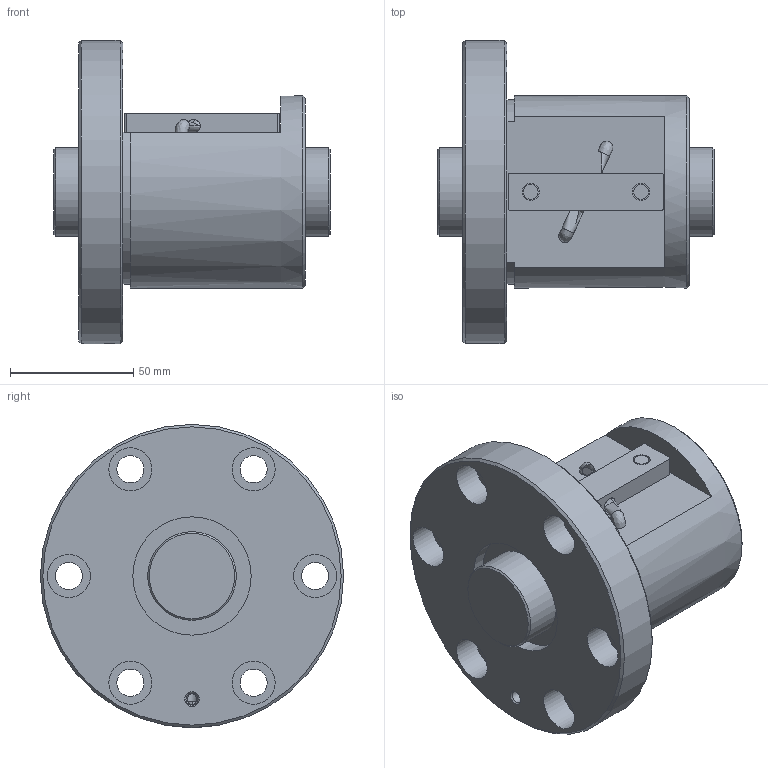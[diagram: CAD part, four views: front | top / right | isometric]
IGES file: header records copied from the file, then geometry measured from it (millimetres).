
Start section: Data from Parasolid IGES Translator 26.0.171, Copyright(c) 2006 Siemens PLM Software. All Rights Reserved.
Global section: file name: BNF3616V-2.5RRG1+112LC0_000_rev.igs; native system: By Siemens PLM Incorporated; preprocessor: XPlus GENERIC/IGES 26.0.171; author: Noname; organization: Noname; date: 20240806.084028; units: millimetre
Bounding box: 112 x 123 x 123 mm (x, y, z)
Surface area: 79247.9 mm2 (no closed solid volume)
Topology: 0 solids, 0 shells, 71 faces, 310 edges, 262 vertices
Faces by surface type: revolution 44, extrusion 27
